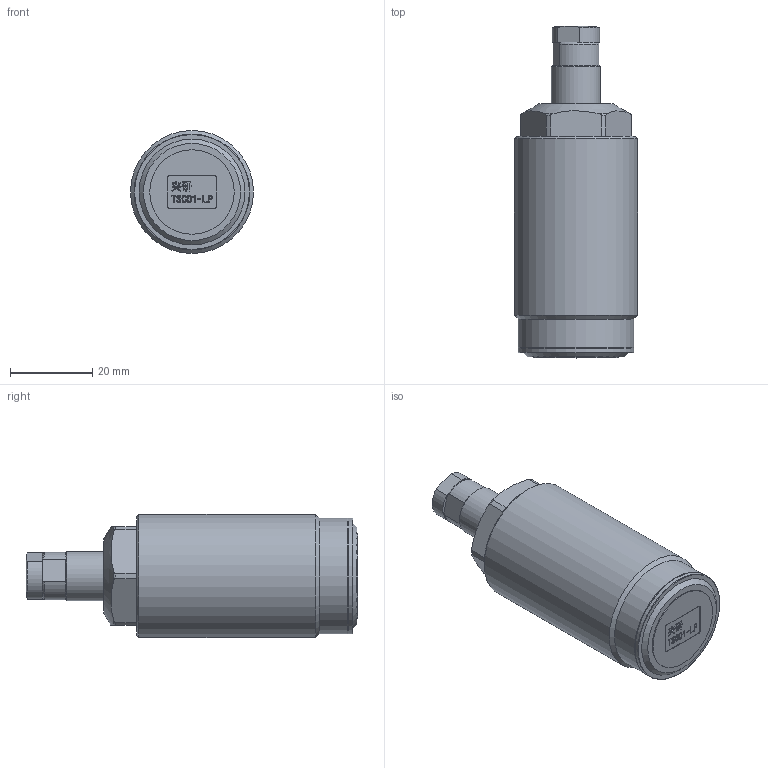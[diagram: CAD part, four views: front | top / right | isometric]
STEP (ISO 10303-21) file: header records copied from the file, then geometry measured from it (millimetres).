
FILE_DESCRIPTION(/* description */ (''),/* implementation_level */ '2;1');
FILE_NAME(/* name */ 'TSC01-LP.stp',/* time_stamp */ '2022-05-04T14:45:04+08:00',/* author */ (''),/* organization */ (''),/* preprocessor_version */ 'ST-DEVELOPER v16.7',/* originating_system */ 'SIEMENS PLM Software NX 12.0',/* authorisation */ '');
FILE_SCHEMA (('AUTOMOTIVE_DESIGN { 1 0 10303 214 3 1 1 1 }'));
Length unit declared in the file: millimetre
Products named in the file (1): TSC01-LP
Bounding box: 30 x 80.94 x 30 mm (x, y, z)
Volume: 42512.5 mm3; surface area: 9676.1 mm2
Topology: 3 solids, 3 shells, 243 faces, 616 edges, 404 vertices
Faces by surface type: plane 130, extrusion 64, cylinder 25, torus 15, cone 8, sphere 1
Full cylindrical faces by diameter (mm): 4.3 x1, 6 x1, 8 x2, 8.3 x1, 12 x2, 20.58 x1, 28.2 x2, 30 x1
Entity records: 9525 total; most frequent: CARTESIAN_POINT 2765, ORIENTED_EDGE 1172, DIRECTION 934, EDGE_CURVE 586, VECTOR 426, VERTEX_POINT 402, LINE 362, EDGE_LOOP 296
